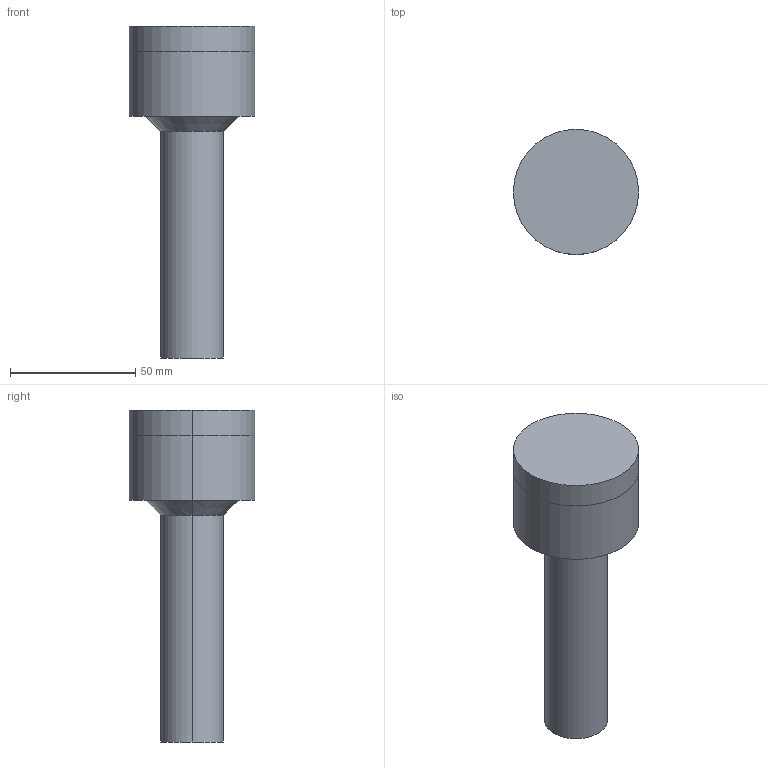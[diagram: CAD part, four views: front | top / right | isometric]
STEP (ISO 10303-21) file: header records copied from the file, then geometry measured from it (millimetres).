
FILE_DESCRIPTION (( 'STEP AP214' ), '1' );
FILE_NAME ('BruyRubio_B4_122,5.STEP', '2020-01-14T10:19:57', ( '' ), ( '' ), 'SwSTEP 2.0', 'SolidWorks 2017', '' );
FILE_SCHEMA (( 'AUTOMOTIVE_DESIGN' ));
Length unit declared in the file: millimetre
Products named in the file (3): BruyRubio_B4_122,5; Einbauraum_8d1d31; B4 122,5_0f160c
Assembly tree (2 placements, depth 2):
  BruyRubio_B4_122,5
    Einbauraum_8d1d31
    B4 122,5_0f160c
Bounding box: 50 x 50 x 132.5 mm (x, y, z)
Volume: 213277 mm3; surface area: 34971.6 mm2
Topology: 2 solids, 2 shells, 23 faces, 44 edges, 26 vertices
Faces by surface type: cylinder 8, cone 6, plane 5, torus 2, sphere 2
Entity records: 955 total; most frequent: DIRECTION 130, CARTESIAN_POINT 98, ORIENTED_EDGE 88, AXIS2_PLACEMENT_3D 58, EDGE_CURVE 44, CIRCLE 30, UNCERTAINTY_MEASURE_WITH_UNIT 30, FILL_AREA_STYLE_COLOUR 27
